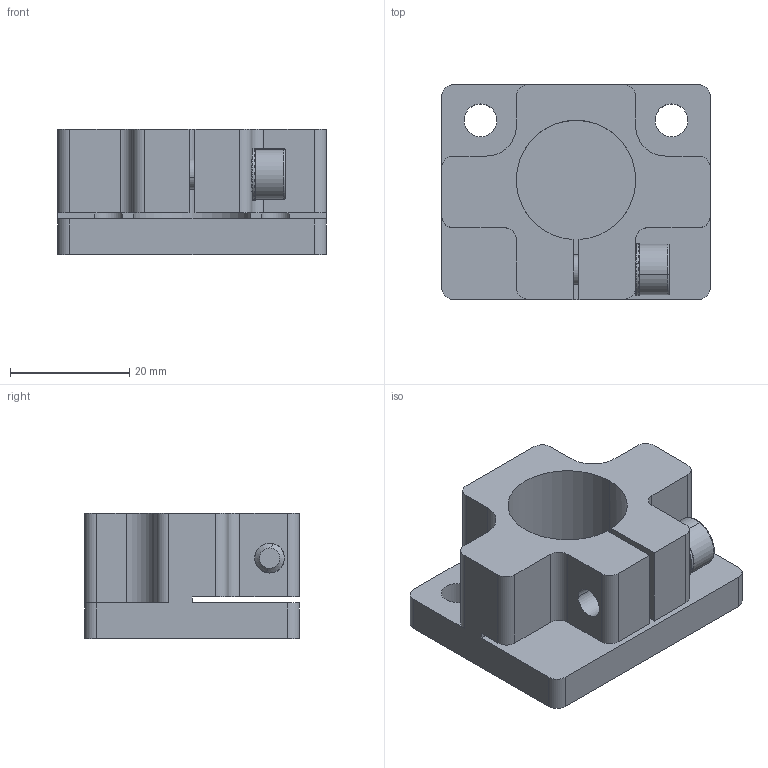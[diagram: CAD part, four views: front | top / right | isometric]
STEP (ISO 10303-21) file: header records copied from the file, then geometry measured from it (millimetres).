
FILE_DESCRIPTION (( 'STEP AP214' ), '1' );
FILE_NAME ('SMBU2-20T.STEP', '2023-01-05T01:53:13', ( 'Windows User' ), ( 'P R C' ), 'SwSTEP 2.0', 'SolidWorks 2018', '' );
FILE_SCHEMA (( 'AUTOMOTIVE_DESIGN' ));
Length unit declared in the file: millimetre
Products named in the file (1): SMBU2-20T
Bounding box: 45 x 36 x 21 mm (x, y, z)
Volume: 19202.8 mm3; surface area: 9597.6 mm2
Topology: 3 solids, 3 shells, 286 faces, 837 edges, 548 vertices
Faces by surface type: plane 229, cylinder 45, cone 10, bspline 2
Entity records: 12837 total; most frequent: CARTESIAN_POINT 1809, DIRECTION 1681, ORIENTED_EDGE 1658, EDGE_CURVE 829, AXIS2_PLACEMENT_3D 573, VERTEX_POINT 548, LINE 535, VECTOR 535
